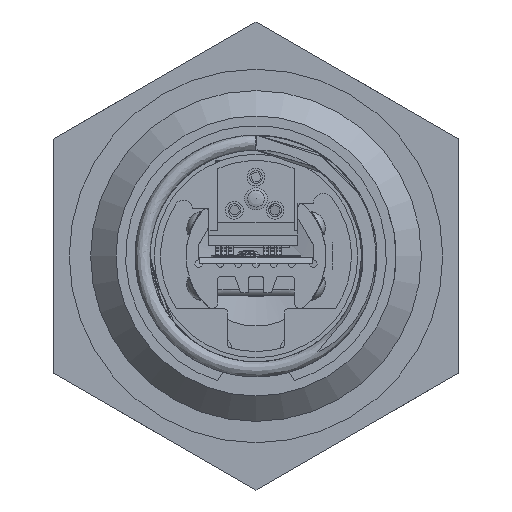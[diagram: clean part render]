
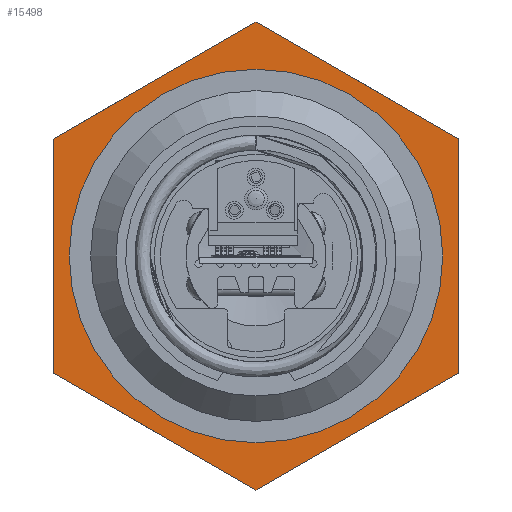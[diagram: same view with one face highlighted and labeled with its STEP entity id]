
A CAD part, left-side view. The second image highlights one B-rep face of the part: STEP entity #15498.
In plain terms, the highlighted planar face has unit normal (-1, 0, 0) as drawn and (1, 0, 0) by its records, which use the part's own axes.
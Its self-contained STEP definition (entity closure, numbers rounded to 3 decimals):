
#507=PLANE('',#19215);
#1144=LINE('',#25940,#2293);
#1146=LINE('',#25944,#2295);
#1148=LINE('',#25948,#2297);
#1150=LINE('',#25952,#2299);
#1152=LINE('',#25956,#2301);
#1153=LINE('',#25958,#2302);
#2293=VECTOR('',#21194,1000.);
#2295=VECTOR('',#21198,1000.);
#2297=VECTOR('',#21202,1000.);
#2299=VECTOR('',#21206,1000.);
#2301=VECTOR('',#21210,1000.);
#2302=VECTOR('',#21213,1000.);
#3362=CIRCLE('',#19203,14.675);
#4605=ORIENTED_EDGE('',*,*,#8685,.F.);
#4606=ORIENTED_EDGE('',*,*,#8684,.F.);
#4607=ORIENTED_EDGE('',*,*,#8682,.F.);
#4608=ORIENTED_EDGE('',*,*,#8680,.F.);
#4609=ORIENTED_EDGE('',*,*,#8678,.F.);
#4610=ORIENTED_EDGE('',*,*,#8676,.F.);
#4611=ORIENTED_EDGE('',*,*,#8665,.T.);
#8665=EDGE_CURVE('',#10774,#10774,#3362,.T.);
#8676=EDGE_CURVE('',#10784,#10783,#1144,.T.);
#8678=EDGE_CURVE('',#10783,#10785,#1146,.T.);
#8680=EDGE_CURVE('',#10785,#10786,#1148,.T.);
#8682=EDGE_CURVE('',#10786,#10787,#1150,.T.);
#8684=EDGE_CURVE('',#10787,#10788,#1152,.T.);
#8685=EDGE_CURVE('',#10788,#10784,#1153,.T.);
#10774=VERTEX_POINT('',#25887);
#10783=VERTEX_POINT('',#25937);
#10784=VERTEX_POINT('',#25939);
#10785=VERTEX_POINT('',#25943);
#10786=VERTEX_POINT('',#25947);
#10787=VERTEX_POINT('',#25951);
#10788=VERTEX_POINT('',#25955);
#12686=EDGE_LOOP('',(#4605,#4606,#4607,#4608,#4609,#4610));
#12687=EDGE_LOOP('',(#4611));
#13932=FACE_BOUND('',#12686,.T.);
#13933=FACE_BOUND('',#12687,.T.);
#15498=ADVANCED_FACE('',(#13932,#13933),#507,.F.);
#19203=AXIS2_PLACEMENT_3D('',#25886,#21178,#21179);
#19215=AXIS2_PLACEMENT_3D('',#25959,#21214,#21215);
#21178=DIRECTION('',(-1.,0.,0.));
#21179=DIRECTION('',(0.,0.5,-0.866));
#21194=DIRECTION('',(0.,1.,0.));
#21198=DIRECTION('',(0.,0.5,-0.866));
#21202=DIRECTION('',(0.,-0.5,-0.866));
#21206=DIRECTION('',(0.,-1.,0.));
#21210=DIRECTION('',(0.,-0.5,0.866));
#21213=DIRECTION('',(0.,0.5,0.866));
#21214=DIRECTION('',(-1.,0.,0.));
#21215=DIRECTION('',(0.,-1.,0.));
#25886=CARTESIAN_POINT('',(0.,0.,0.));
#25887=CARTESIAN_POINT('',(0.,7.337,-12.709));
#25937=CARTESIAN_POINT('',(0.,9.194,15.925));
#25939=CARTESIAN_POINT('',(0.,-9.194,15.925));
#25940=CARTESIAN_POINT('',(0.,-9.194,15.925));
#25943=CARTESIAN_POINT('',(0.,18.389,0.));
#25944=CARTESIAN_POINT('',(0.,18.389,0.));
#25947=CARTESIAN_POINT('',(0.,9.194,-15.925));
#25948=CARTESIAN_POINT('',(0.,18.389,0.));
#25951=CARTESIAN_POINT('',(0.,-9.194,-15.925));
#25952=CARTESIAN_POINT('',(0.,-9.194,-15.925));
#25955=CARTESIAN_POINT('',(0.,-18.389,0.));
#25956=CARTESIAN_POINT('',(0.,-18.389,0.));
#25958=CARTESIAN_POINT('',(0.,-18.389,0.));
#25959=CARTESIAN_POINT('',(0.,-9.194,15.925));
